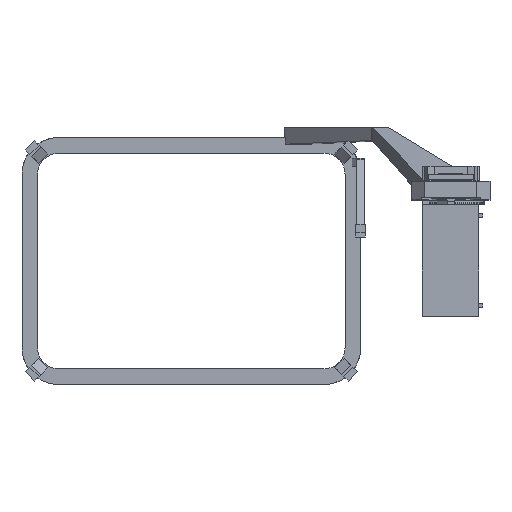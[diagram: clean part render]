
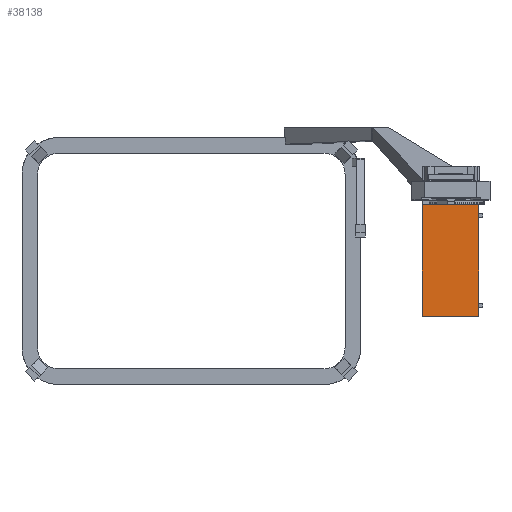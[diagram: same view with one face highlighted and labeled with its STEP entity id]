
A CAD part, top view. The second image highlights one B-rep face of the part: STEP entity #38138.
In plain terms, the highlighted planar face has unit normal (0, 0, 1).
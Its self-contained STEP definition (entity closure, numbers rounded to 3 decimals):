
#18879 = PLANE('',#18880);
#18880 = AXIS2_PLACEMENT_3D('',#18881,#18882,#18883);
#18881 = CARTESIAN_POINT('',(71.048,0.,87.));
#18882 = DIRECTION('',(1.,0.,0.));
#18883 = DIRECTION('',(0.,1.,0.));
#18907 = PLANE('',#18908);
#18908 = AXIS2_PLACEMENT_3D('',#18909,#18910,#18911);
#18909 = CARTESIAN_POINT('',(71.048,-17.1,101.5));
#18910 = DIRECTION('',(0.,1.,0.));
#18911 = DIRECTION('',(0.,0.,-1.));
#19053 = VERTEX_POINT('',#19054);
#19054 = CARTESIAN_POINT('',(71.048,-17.1,101.5));
#19075 = EDGE_CURVE('',#19076,#19053,#19078,.T.);
#19076 = VERTEX_POINT('',#19077);
#19077 = CARTESIAN_POINT('',(88.3,-17.1,101.5));
#19078 = SURFACE_CURVE('',#19079,(#19083,#19090),.PCURVE_S1.);
#19079 = LINE('',#19080,#19081);
#19080 = CARTESIAN_POINT('',(88.3,-17.1,101.5));
#19081 = VECTOR('',#19082,1.);
#19082 = DIRECTION('',(-1.,0.,0.));
#19083 = PCURVE('',#18907,#19084);
#19084 = DEFINITIONAL_REPRESENTATION('',(#19085),#19089);
#19085 = LINE('',#19086,#19087);
#19086 = CARTESIAN_POINT('',(0.,-17.252));
#19087 = VECTOR('',#19088,1.);
#19088 = DIRECTION('',(0.,1.));
#19089 = ( GEOMETRIC_REPRESENTATION_CONTEXT(2) 
PARAMETRIC_REPRESENTATION_CONTEXT() REPRESENTATION_CONTEXT('2D SPACE',''
  ) );
#19090 = PCURVE('',#19091,#19096);
#19091 = PLANE('',#19092);
#19092 = AXIS2_PLACEMENT_3D('',#19093,#19094,#19095);
#19093 = CARTESIAN_POINT('',(71.048,17.1,101.5));
#19094 = DIRECTION('',(0.,0.,-1.));
#19095 = DIRECTION('',(0.,-1.,0.));
#19096 = DEFINITIONAL_REPRESENTATION('',(#19097),#19101);
#19097 = LINE('',#19098,#19099);
#19098 = CARTESIAN_POINT('',(34.2,-17.252));
#19099 = VECTOR('',#19100,1.);
#19100 = DIRECTION('',(0.,1.));
#19101 = ( GEOMETRIC_REPRESENTATION_CONTEXT(2) 
PARAMETRIC_REPRESENTATION_CONTEXT() REPRESENTATION_CONTEXT('2D SPACE',''
  ) );
#19119 = PLANE('',#19120);
#19120 = AXIS2_PLACEMENT_3D('',#19121,#19122,#19123);
#19121 = CARTESIAN_POINT('',(88.3,-17.1,72.5));
#19122 = DIRECTION('',(1.,0.,0.));
#19123 = DIRECTION('',(0.,0.,1.));
#34547 = PLANE('',#34548);
#34548 = AXIS2_PLACEMENT_3D('',#34549,#34550,#34551);
#34549 = CARTESIAN_POINT('',(71.048,17.1,72.5));
#34550 = DIRECTION('',(0.,-1.,0.));
#34551 = DIRECTION('',(0.,0.,1.));
#34584 = VERTEX_POINT('',#34585);
#34585 = CARTESIAN_POINT('',(88.3,17.1,101.5));
#34608 = EDGE_CURVE('',#34584,#34609,#34611,.T.);
#34609 = VERTEX_POINT('',#34610);
#34610 = CARTESIAN_POINT('',(71.048,17.1,101.5));
#34611 = SURFACE_CURVE('',#34612,(#34616,#34623),.PCURVE_S1.);
#34612 = LINE('',#34613,#34614);
#34613 = CARTESIAN_POINT('',(88.3,17.1,101.5));
#34614 = VECTOR('',#34615,1.);
#34615 = DIRECTION('',(-1.,0.,0.));
#34616 = PCURVE('',#34547,#34617);
#34617 = DEFINITIONAL_REPRESENTATION('',(#34618),#34622);
#34618 = LINE('',#34619,#34620);
#34619 = CARTESIAN_POINT('',(29.,-17.252));
#34620 = VECTOR('',#34621,1.);
#34621 = DIRECTION('',(0.,1.));
#34622 = ( GEOMETRIC_REPRESENTATION_CONTEXT(2) 
PARAMETRIC_REPRESENTATION_CONTEXT() REPRESENTATION_CONTEXT('2D SPACE',''
  ) );
#34623 = PCURVE('',#19091,#34624);
#34624 = DEFINITIONAL_REPRESENTATION('',(#34625),#34629);
#34625 = LINE('',#34626,#34627);
#34626 = CARTESIAN_POINT('',(0.,-17.252));
#34627 = VECTOR('',#34628,1.);
#34628 = DIRECTION('',(0.,1.));
#34629 = ( GEOMETRIC_REPRESENTATION_CONTEXT(2) 
PARAMETRIC_REPRESENTATION_CONTEXT() REPRESENTATION_CONTEXT('2D SPACE',''
  ) );
#38118 = EDGE_CURVE('',#34584,#19076,#38119,.T.);
#38119 = SURFACE_CURVE('',#38120,(#38124,#38131),.PCURVE_S1.);
#38120 = LINE('',#38121,#38122);
#38121 = CARTESIAN_POINT('',(88.3,17.1,101.5));
#38122 = VECTOR('',#38123,1.);
#38123 = DIRECTION('',(0.,-1.,0.));
#38124 = PCURVE('',#19119,#38125);
#38125 = DEFINITIONAL_REPRESENTATION('',(#38126),#38130);
#38126 = LINE('',#38127,#38128);
#38127 = CARTESIAN_POINT('',(29.,-34.2));
#38128 = VECTOR('',#38129,1.);
#38129 = DIRECTION('',(0.,1.));
#38130 = ( GEOMETRIC_REPRESENTATION_CONTEXT(2) 
PARAMETRIC_REPRESENTATION_CONTEXT() REPRESENTATION_CONTEXT('2D SPACE',''
  ) );
#38131 = PCURVE('',#19091,#38132);
#38132 = DEFINITIONAL_REPRESENTATION('',(#38133),#38137);
#38133 = LINE('',#38134,#38135);
#38134 = CARTESIAN_POINT('',(0.,-17.252));
#38135 = VECTOR('',#38136,1.);
#38136 = DIRECTION('',(1.,0.));
#38137 = ( GEOMETRIC_REPRESENTATION_CONTEXT(2) 
PARAMETRIC_REPRESENTATION_CONTEXT() REPRESENTATION_CONTEXT('2D SPACE',''
  ) );
#38138 = ADVANCED_FACE('',(#38139),#19091,.F.);
#38139 = FACE_BOUND('',#38140,.F.);
#38140 = EDGE_LOOP('',(#38141,#38162,#38163,#38164));
#38141 = ORIENTED_EDGE('',*,*,#38142,.T.);
#38142 = EDGE_CURVE('',#19053,#34609,#38143,.T.);
#38143 = SURFACE_CURVE('',#38144,(#38148,#38155),.PCURVE_S1.);
#38144 = LINE('',#38145,#38146);
#38145 = CARTESIAN_POINT('',(71.048,-17.1,101.5));
#38146 = VECTOR('',#38147,1.);
#38147 = DIRECTION('',(0.,1.,0.));
#38148 = PCURVE('',#19091,#38149);
#38149 = DEFINITIONAL_REPRESENTATION('',(#38150),#38154);
#38150 = LINE('',#38151,#38152);
#38151 = CARTESIAN_POINT('',(34.2,0.));
#38152 = VECTOR('',#38153,1.);
#38153 = DIRECTION('',(-1.,0.));
#38154 = ( GEOMETRIC_REPRESENTATION_CONTEXT(2) 
PARAMETRIC_REPRESENTATION_CONTEXT() REPRESENTATION_CONTEXT('2D SPACE',''
  ) );
#38155 = PCURVE('',#18879,#38156);
#38156 = DEFINITIONAL_REPRESENTATION('',(#38157),#38161);
#38157 = LINE('',#38158,#38159);
#38158 = CARTESIAN_POINT('',(-17.1,14.5));
#38159 = VECTOR('',#38160,1.);
#38160 = DIRECTION('',(1.,0.));
#38161 = ( GEOMETRIC_REPRESENTATION_CONTEXT(2) 
PARAMETRIC_REPRESENTATION_CONTEXT() REPRESENTATION_CONTEXT('2D SPACE',''
  ) );
#38162 = ORIENTED_EDGE('',*,*,#34608,.F.);
#38163 = ORIENTED_EDGE('',*,*,#38118,.T.);
#38164 = ORIENTED_EDGE('',*,*,#19075,.T.);
